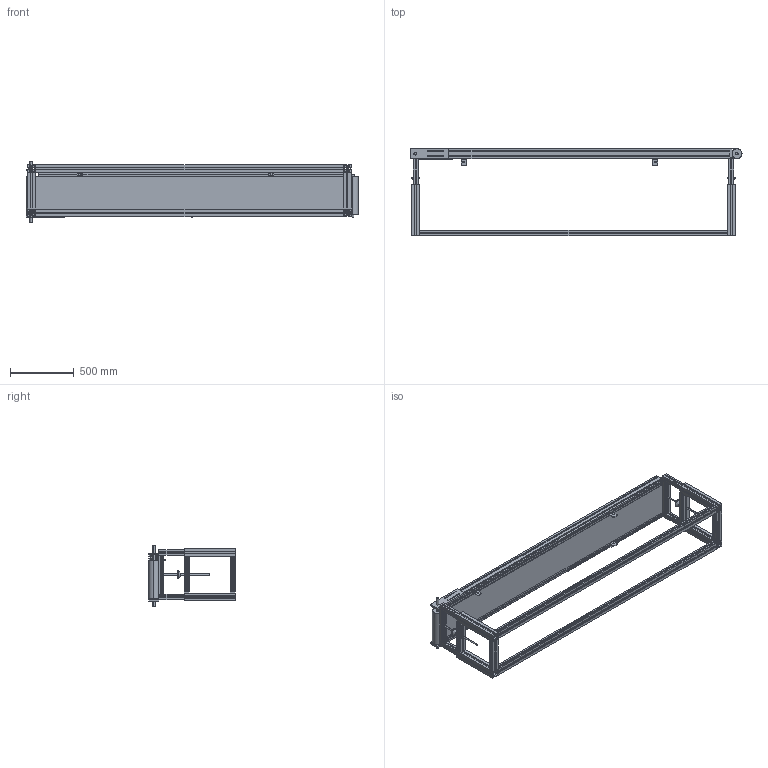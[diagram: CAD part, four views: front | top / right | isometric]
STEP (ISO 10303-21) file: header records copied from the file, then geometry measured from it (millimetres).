
FILE_DESCRIPTION(/* description */ (''),/* implementation_level */ '2;1');
FILE_NAME(/* name */ 'beltconveyor_a039_w300_l2500.stp',/* time_stamp */ '2024-12-19T21:24:41+08:00',/* author */ (''),/* organization */ (''),/* preprocessor_version */ 'ST-DEVELOPER v16.7',/* originating_system */ 'SIEMENS PLM Software NX 12.0',/* authorisation */ '');
FILE_SCHEMA (('AUTOMOTIVE_DESIGN { 1 0 10303 214 3 1 1 1 }'));
Length unit declared in the file: millimetre
Products named in the file (17): 铝型材180X40X40; 铝型材400X60X60; 螺杆; 铝型材880X60X40; 旋动盘; 1027X40X40; 1000 轴76-12; 5M皮带轴76-20; 1000 轴38-12; 5M向皮带; 滚筒头部; 5M支撑钣金1; 铝型材2000X60X40; 底部滚筒L块; 铝型材5000X80X40; 5M机架1; beltconveyor_a039_w300_l2500
Assembly tree (27 placements, depth 3):
  beltconveyor_a039_w300_l2500
    铝型材5000X80X40  x2
    底部滚筒L块  x4
    铝型材2000X60X40  x2
    5M机架1  x2
      1027X40X40
      旋动盘
      铝型材880X60X40
      螺杆
      铝型材400X60X60
      铝型材180X40X40
    5M支撑钣金1  x2
    滚筒头部  x2
    5M向皮带
    1000 轴38-12
    5M皮带轴76-20
    1000 轴76-12
Bounding box: 2598.66 x 680.72 x 480 mm (x, y, z)
Volume: 33035260.3 mm3; surface area: 11739145.1 mm2
Topology: 106 solids, 106 shells, 2397 faces, 6499 edges, 4314 vertices
Faces by surface type: plane 1448, extrusion 738, cylinder 183, torus 16, cone 12
Full cylindrical faces by diameter (mm): 12 x2, 20 x2, 38 x1, 76 x1
Entity records: 38595 total; most frequent: CARTESIAN_POINT 12743, ORIENTED_EDGE 5788, DIRECTION 3819, EDGE_CURVE 2894, VERTEX_POINT 1926, VECTOR 1909, LINE 1540, B_SPLINE_CURVE_WITH_KNOTS 1509
